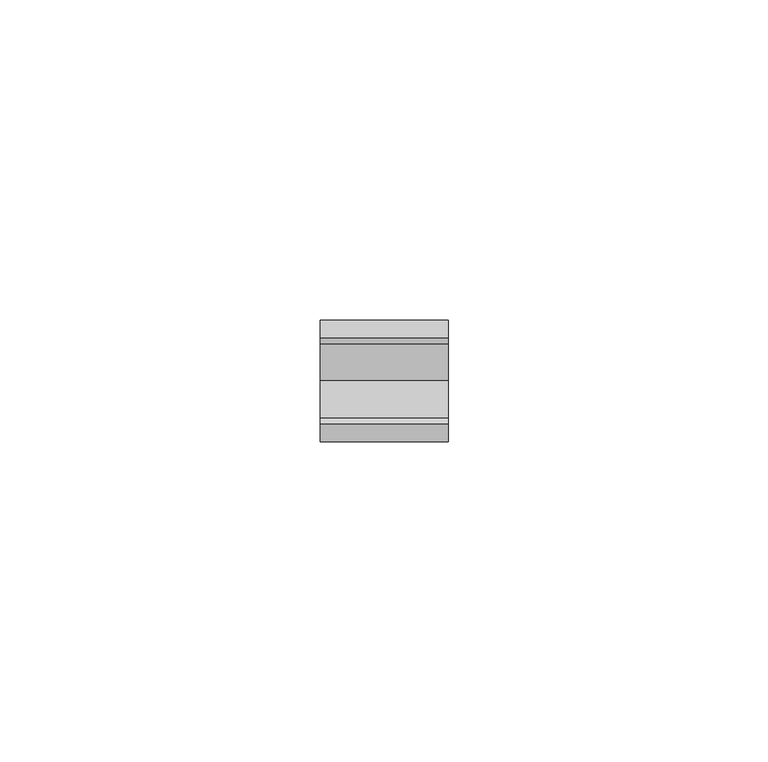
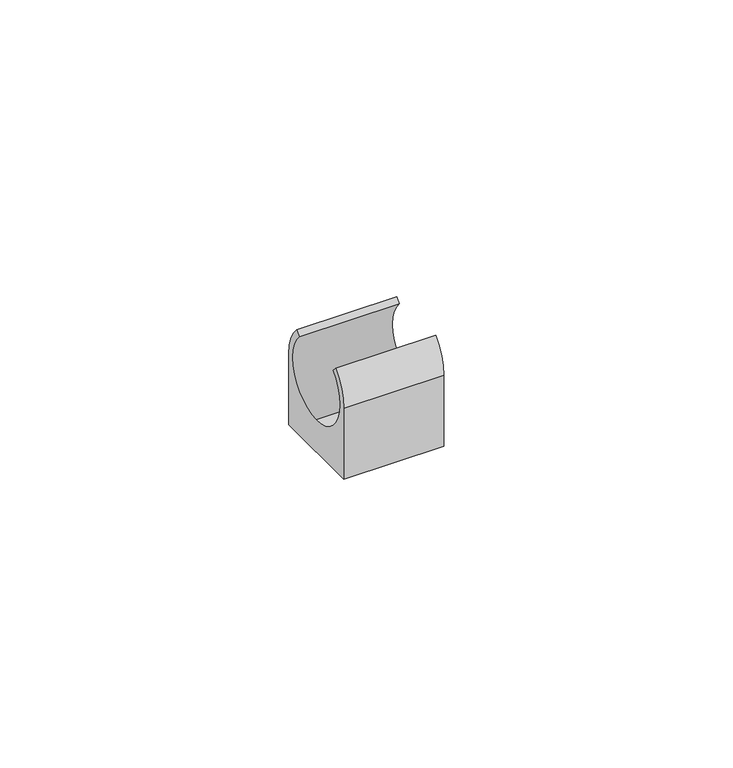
"""IFC4 building model written with IfcOpenShell, lengths in millimetres: cable carrier fitting geometry."""

from ifc_helpers import new_model, si_unit, point, frame, origin, origin_2d, place, context, project, spatial, polyline, circle_curve, trimmed, segment, composite_curve, outline, extrude, source, transform, mapped, element, save


def cable_carrier_fitting_980a1c15(model_context):
    return source(origin(), model_context, "Body", "SweptSolid", [
        extrude(outline(composite_curve([segment(trimmed(circle_curve(origin_2d(), 8.2369047), [point((0.0, -8.2369047))], [point((5.8243712, 5.8243712))], True, "CARTESIAN"), True, "CONTINUOUS"), segment(polyline([(5.8243712, 5.8243712), (6.7175144, 6.7175144)]), True, "CONTINUOUS"), segment(trimmed(circle_curve(origin_2d(), 9.5), [point((6.7175144, 6.7175144))], [point((9.5, 0.0))], False, "CARTESIAN"), True, "CONTINUOUS"), segment(polyline([(9.5, 0.0), (9.5, -15.0), (-9.5, -15.0), (-9.5, 0.0)]), True, "CONTINUOUS"), segment(trimmed(circle_curve(origin_2d(), 9.5), [point((-9.5, 0.0))], [point((-6.7175144, 6.7175144))], False, "CARTESIAN"), True, "CONTINUOUS"), segment(polyline([(-6.7175144, 6.7175144), (-5.8243712, 5.8243712)]), True, "CONTINUOUS"), segment(trimmed(circle_curve(origin_2d(), 8.2369047), [point((-5.8243712, 5.8243712))], [point((0.0, -8.2369047))], True, "CARTESIAN"), True, "CONTINUOUS")], self_intersect=False)), frame((-10.0, 0.0, 0.0), z_axis=(1.0, 0.0, 0.0), x_axis=(0.0, 1.0, 0.0)), (0.0, 0.0, 1.0), 20.0),
    ])


if __name__ == "__main__":
    model = new_model("IFC4")
    model_context = context("Model", 3, world=origin())
    ifc_project = project(units=[si_unit("LENGTHUNIT", "METRE", prefix="MILLI")], contexts=[model_context])
    site = spatial("IfcSite", under=ifc_project)
    building = spatial("IfcBuilding", under=site)
    placement = place(None, origin())
    cable_carrier_fitting_shape = cable_carrier_fitting_980a1c15(model_context)
    element("IfcCableCarrierFitting", 1, ObjectType="Крепеж-клипса_для_труб : Крепеж-клипса для трубы 16мм \"ЭКО\" (бук)", at=placement, inside=building, context=model_context, shape_type="MappedRepresentation", body=[
        mapped(cable_carrier_fitting_shape, transform((0.0, 0.0, 0.0), x_axis=(1.0, 0.0, 0.0), y_axis=(0.0, 1.0, 0.0), z_axis=(0.0, 0.0, 1.0))),
    ])
    save(model, "model.ifc")
